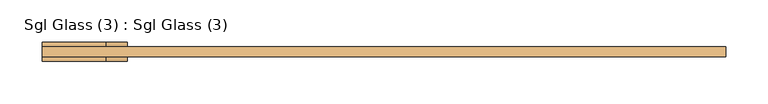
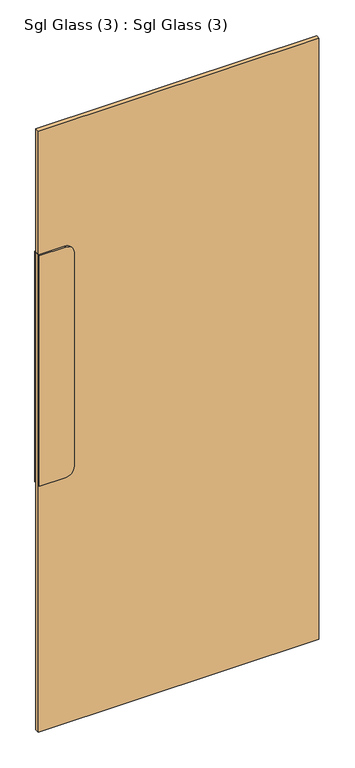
"""IFC4 building model written with IfcOpenShell, lengths in millimetres: door geometry, Sgl Glass (3) : Sgl Glass (3)."""

from ifc_helpers import new_model, si_unit, point, frame, frame_2d, origin, origin_with_axes, place, context, project, spatial, polyline, circle_curve, trimmed, segment, composite_curve, outline, extrude, source, transform, mapped, element, save


def sgl_glass_3_sgl_glass_3_026d372b(model_context):
    return source(origin(), model_context, "Body", "SweptSolid", [
        extrude(outline(polyline([(403.1249999, 50.0), (403.1249999, 38.0), (-403.1249999, 38.0), (-403.1249999, 50.0), (403.1249999, 50.0)])), origin_with_axes(), (0.0, 0.0, 1.0), 1825.0),
        extrude(outline(composite_curve([segment(polyline([(1450.0, -328.1249999), (1450.0, -403.1249999), (750.0, -403.1249999), (750.0, -328.1249999)]), True, "CONTINUOUS"), segment(trimmed(circle_curve(frame_2d((775.0, -328.1249999)), 25.0), [point((750.0, -328.1249999))], [point((775.0, -303.1249999))], False, "CARTESIAN"), True, "CONTINUOUS"), segment(polyline([(775.0, -303.1249999), (1425.0, -303.1249999)]), True, "CONTINUOUS"), segment(trimmed(circle_curve(frame_2d((1425.0, -328.1249999)), 25.0), [point((1425.0, -303.1249999))], [point((1450.0, -328.1249999))], False, "CARTESIAN"), True, "CONTINUOUS")], self_intersect=False)), frame((0.0, 33.0, 0.0), z_axis=(0.0, 1.0, 0.0), x_axis=(0.0, 0.0, 1.0)), (0.0, 0.0, 1.0), 22.0),
    ])


if __name__ == "__main__":
    model = new_model("IFC4")
    model_context = context("Model", 3, world=origin())
    ifc_project = project(units=[si_unit("LENGTHUNIT", "METRE", prefix="MILLI")], contexts=[model_context])
    site = spatial("IfcSite", under=ifc_project)
    building = spatial("IfcBuilding", under=site)
    placement = place(None, origin())
    sgl_glass_3_sgl_glass_3_shape = sgl_glass_3_sgl_glass_3_026d372b(model_context)
    element("IfcDoor", 1, ObjectType="Sgl Glass (3) : Sgl Glass (3)", at=placement, inside=building, context=model_context, shape_type="MappedRepresentation", body=[
        mapped(sgl_glass_3_sgl_glass_3_shape, transform((0.0, 0.0, 0.0), x_axis=(1.0, 0.0, 0.0), y_axis=(0.0, 1.0, 0.0), z_axis=(0.0, 0.0, 1.0))),
    ])
    save(model, "model.ifc")
